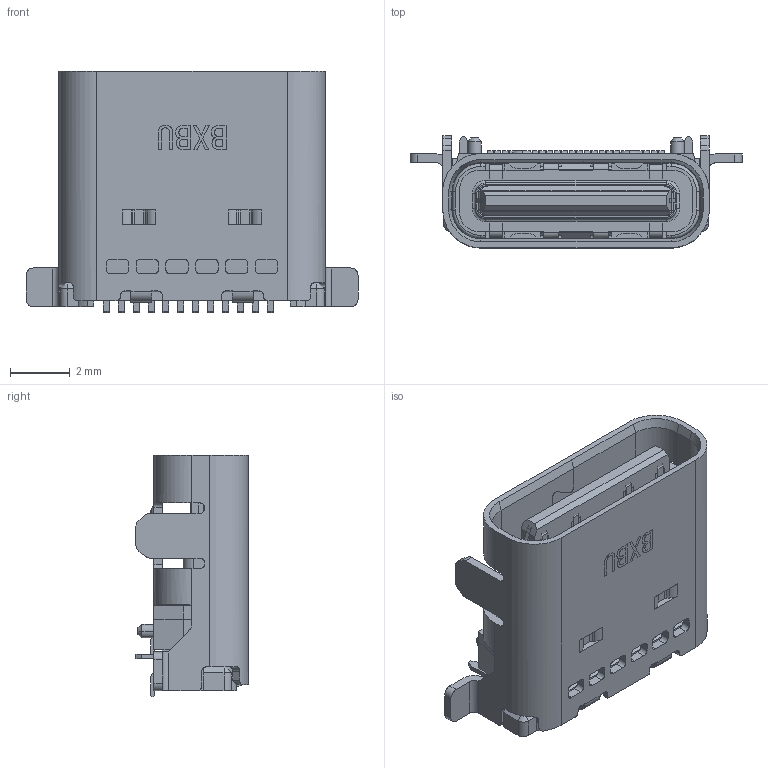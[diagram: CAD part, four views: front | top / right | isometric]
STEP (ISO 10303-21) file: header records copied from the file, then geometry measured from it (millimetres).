
FILE_DESCRIPTION (( 'STEP AP203' ), '1' );
FILE_NAME ('U5290-24PN7.9L.STEP', '2026-08-19T09:00:51', ( '' ), ( '' ), 'SwSTEP 2.0', 'SolidWorks 2020', '' );
FILE_SCHEMA (( 'CONFIG_CONTROL_DESIGN' ));
Length unit declared in the file: millimetre
Products named in the file (26): p43^USB_TypeCf24p°?é?????SMT_USB_TypeCf24p板上双排SMT.STEP_U5290-24PN7.9L(2)_U5290-24PN7.9L; U5290-24PN7.9L; p39^USB_TypeCf24p°?é?????SMT_USB_TypeCf24p板上双排SMT.STEP_U5290-24PN7.9L(2)_U5290-24PN7.9L; p37^USB_TypeCf24p°?é?????SMT_USB_TypeCf24p板上双排SMT.STEP_U5290-24PN7.9L(2)_U5290-24PN7.9L; p34^USB_TypeCf24p°?é?????SMT_USB_TypeCf24p板上双排SMT.STEP_U5290-24PN7.9L(2)_U5290-24PN7.9L; p44^USB_TypeCf24p°?é?????SMT_USB_TypeCf24p板上双排SMT.STEP_U5290-24PN7.9L(2)_U5290-24PN7.9L; p42^USB_TypeCf24p°?é?????SMT_USB_TypeCf24p板上双排SMT.STEP_U5290-24PN7.9L(2)_U5290-24PN7.9L; p1^USB_TypeCf24p°?é?????SMT_USB_TypeCf24p板上双排SMT.STEP_U5290-24PN7.9L(2)_U5290-24PN7.9L; p41^USB_TypeCf24p°?é?????SMT_USB_TypeCf24p板上双排SMT.STEP_U5290-24PN7.9L(2)_U5290-24PN7.9L; p48^USB_TypeCf24p°?é?????SMT_USB_TypeCf24p板上双排SMT.STEP_U5290-24PN7.9L(2)_U5290-24PN7.9L; p32^USB_TypeCf24p°?é?????SMT_USB_TypeCf24p板上双排SMT.STEP_U5290-24PN7.9L(2)_U5290-24PN7.9L; p45^USB_TypeCf24p°?é?????SMT_USB_TypeCf24p板上双排SMT.STEP_U5290-24PN7.9L(2)_U5290-24PN7.9L; p40^USB_TypeCf24p°?é?????SMT_USB_TypeCf24p板上双排SMT.STEP_U5290-24PN7.9L(2)_U5290-24PN7.9L; USB_TypeCf24p°?é?????SMT^USB_TypeCf24p板上双排SMT.STEP_U5290-24PN7.9L(2)_U5290-24PN7.9L; p38^USB_TypeCf24p°?é?????SMT_USB_TypeCf24p板上双排SMT.STEP_U5290-24PN7.9L(2)_U5290-24PN7.9L; p49^USB_TypeCf24p°?é?????SMT_USB_TypeCf24p板上双排SMT.STEP_U5290-24PN7.9L(2)_U5290-24PN7.9L; p36^USB_TypeCf24p°?é?????SMT_USB_TypeCf24p板上双排SMT.STEP_U5290-24PN7.9L(2)_U5290-24PN7.9L; p47^USB_TypeCf24p°?é?????SMT_USB_TypeCf24p板上双排SMT.STEP_U5290-24PN7.9L(2)_U5290-24PN7.9L; p35^USB_TypeCf24p°?é?????SMT_USB_TypeCf24p板上双排SMT.STEP_U5290-24PN7.9L(2)_U5290-24PN7.9L; p31^USB_TypeCf24p°?é?????SMT_USB_TypeCf24p板上双排SMT.STEP_U5290-24PN7.9L(2)_U5290-24PN7.9L; p30^USB_TypeCf24p°?é?????SMT_USB_TypeCf24p板上双排SMT.STEP_U5290-24PN7.9L(2)_U5290-24PN7.9L; USB_TypeCf24p啣奻邧齬SMT.STEP^U5290-24PN7.9L(2)_U5290-24PN7.9L; p50^USB_TypeCf24p°?é?????SMT_USB_TypeCf24p板上双排SMT.STEP_U5290-24PN7.9L(2)_U5290-24PN7.9L; U5290-24PN7.9L(2)^U5290-24PN7.9L; p46^USB_TypeCf24p°?é?????SMT_USB_TypeCf24p板上双排SMT.STEP_U5290-24PN7.9L(2)_U5290-24PN7.9L; p33^USB_TypeCf24p°?é?????SMT_USB_TypeCf24p板上双排SMT.STEP_U5290-24PN7.9L(2)_U5290-24PN7.9L
Assembly tree (25 placements, depth 5):
  U5290-24PN7.9L
    U5290-24PN7.9L(2)^U5290-24PN7.9L
      USB_TypeCf24p啣奻邧齬SMT.STEP^U5290-24PN7.9L(2)_U5290-24PN7.9L
        USB_TypeCf24p°?é?????SMT^USB_TypeCf24p板上双排SMT.STEP_U5290-24PN7.9L(2)_U5290-24PN7.9L
          p40^USB_TypeCf24p°?é?????SMT_USB_TypeCf24p板上双排SMT.STEP_U5290-24PN7.9L(2)_U5290-24PN7.9L
          p39^USB_TypeCf24p°?é?????SMT_USB_TypeCf24p板上双排SMT.STEP_U5290-24PN7.9L(2)_U5290-24PN7.9L
          p41^USB_TypeCf24p°?é?????SMT_USB_TypeCf24p板上双排SMT.STEP_U5290-24PN7.9L(2)_U5290-24PN7.9L
          p30^USB_TypeCf24p°?é?????SMT_USB_TypeCf24p板上双排SMT.STEP_U5290-24PN7.9L(2)_U5290-24PN7.9L
          p42^USB_TypeCf24p°?é?????SMT_USB_TypeCf24p板上双排SMT.STEP_U5290-24PN7.9L(2)_U5290-24PN7.9L
          p31^USB_TypeCf24p°?é?????SMT_USB_TypeCf24p板上双排SMT.STEP_U5290-24PN7.9L(2)_U5290-24PN7.9L
          p43^USB_TypeCf24p°?é?????SMT_USB_TypeCf24p板上双排SMT.STEP_U5290-24PN7.9L(2)_U5290-24PN7.9L
          p32^USB_TypeCf24p°?é?????SMT_USB_TypeCf24p板上双排SMT.STEP_U5290-24PN7.9L(2)_U5290-24PN7.9L
          p44^USB_TypeCf24p°?é?????SMT_USB_TypeCf24p板上双排SMT.STEP_U5290-24PN7.9L(2)_U5290-24PN7.9L
          p33^USB_TypeCf24p°?é?????SMT_USB_TypeCf24p板上双排SMT.STEP_U5290-24PN7.9L(2)_U5290-24PN7.9L
          p45^USB_TypeCf24p°?é?????SMT_USB_TypeCf24p板上双排SMT.STEP_U5290-24PN7.9L(2)_U5290-24PN7.9L
          p34^USB_TypeCf24p°?é?????SMT_USB_TypeCf24p板上双排SMT.STEP_U5290-24PN7.9L(2)_U5290-24PN7.9L
          p46^USB_TypeCf24p°?é?????SMT_USB_TypeCf24p板上双排SMT.STEP_U5290-24PN7.9L(2)_U5290-24PN7.9L
          p35^USB_TypeCf24p°?é?????SMT_USB_TypeCf24p板上双排SMT.STEP_U5290-24PN7.9L(2)_U5290-24PN7.9L
          p47^USB_TypeCf24p°?é?????SMT_USB_TypeCf24p板上双排SMT.STEP_U5290-24PN7.9L(2)_U5290-24PN7.9L
          p36^USB_TypeCf24p°?é?????SMT_USB_TypeCf24p板上双排SMT.STEP_U5290-24PN7.9L(2)_U5290-24PN7.9L
          p48^USB_TypeCf24p°?é?????SMT_USB_TypeCf24p板上双排SMT.STEP_U5290-24PN7.9L(2)_U5290-24PN7.9L
          p37^USB_TypeCf24p°?é?????SMT_USB_TypeCf24p板上双排SMT.STEP_U5290-24PN7.9L(2)_U5290-24PN7.9L
          p49^USB_TypeCf24p°?é?????SMT_USB_TypeCf24p板上双排SMT.STEP_U5290-24PN7.9L(2)_U5290-24PN7.9L
          p38^USB_TypeCf24p°?é?????SMT_USB_TypeCf24p板上双排SMT.STEP_U5290-24PN7.9L(2)_U5290-24PN7.9L
          p50^USB_TypeCf24p°?é?????SMT_USB_TypeCf24p板上双排SMT.STEP_U5290-24PN7.9L(2)_U5290-24PN7.9L
          p1^USB_TypeCf24p°?é?????SMT_USB_TypeCf24p板上双排SMT.STEP_U5290-24PN7.9L(2)_U5290-24PN7.9L
Bounding box: 11.14 x 3.76 x 8.1 mm (x, y, z)
Volume: 48.2 mm3; surface area: 779.5 mm2
Topology: 21 solids, 39 shells, 1796 faces, 5375 edges, 3570 vertices
Faces by surface type: plane 1340, cylinder 388, cone 28, torus 24, bspline 16
Entity records: 68672 total; most frequent: CARTESIAN_POINT 27071, ORIENTED_EDGE 10518, EDGE_CURVE 5375, B_SPLINE_CURVE_WITH_KNOTS 4787, DIRECTION 4260, VERTEX_POINT 3570, AXIS2_PLACEMENT_3D 1860, EDGE_LOOP 1851
